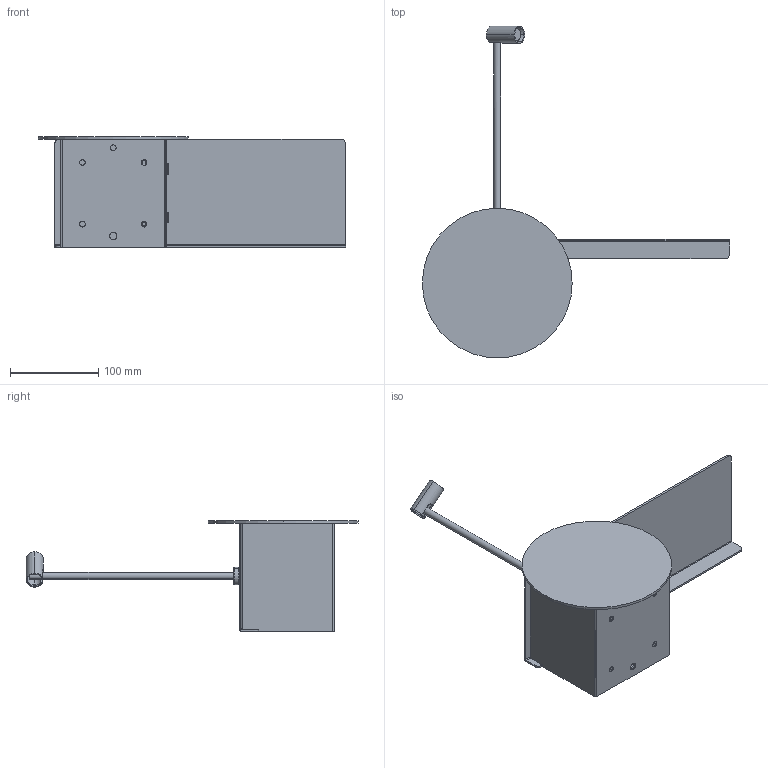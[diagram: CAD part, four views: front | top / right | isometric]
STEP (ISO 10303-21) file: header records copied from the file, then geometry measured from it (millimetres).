
FILE_DESCRIPTION((''),'2;1');
FILE_NAME('WHISTLE_DX_ASM','2025-05-15T14:41:09',('cad5'),(''),'CREO PARAMETRIC BY PTC INC, 2020354','CREO PARAMETRIC BY PTC INC, 2020354','');
FILE_SCHEMA(('CONFIG_CONTROL_DESIGN'));
Length unit declared in the file: millimetre
Products named in the file (14): PULSANTE_MOMENTANEO_BIGA_-_COD__ASM; LENTE_SPOT_HALLEY_0001_ASM; ASSIEME_FARETTO_BIGA_-_COD_-_AF_ASM; WHISTLE_DX_TUTTO_ASM; PRT0001; PRT0002; PRT0003; PRT0004; PRT0005; PRT0006; PRT0007; PRT0008; PRT0009; WHISTLE_DX_ASM
Assembly tree (14 placements, depth 4):
  WHISTLE_DX_ASM
    WHISTLE_DX_TUTTO_ASM
      PULSANTE_MOMENTANEO_BIGA_-_COD__ASM  x2
      ASSIEME_FARETTO_BIGA_-_COD_-_AF_ASM
        LENTE_SPOT_HALLEY_0001_ASM
    PRT0001
    PRT0002
    PRT0003
    PRT0004
    PRT0005
    PRT0006
    PRT0007
    PRT0008
    PRT0009
Bounding box: 348.75 x 376.95 x 126 mm (x, y, z)
Volume: 286932.8 mm3; surface area: 317486 mm2
Topology: 12 solids, 16 shells, 486 faces, 1282 edges, 829 vertices
Faces by surface type: plane 209, cylinder 201, extrusion 25, cone 19, torus 15, bspline 8, revolution 5, sphere 4
Entity records: 29467 total; most frequent: CARTESIAN_POINT 16851, DIRECTION 2584, ORIENTED_EDGE 2538, EDGE_CURVE 1280, AXIS2_PLACEMENT_3D 935, VERTEX_POINT 829, VECTOR 709, LINE 684
